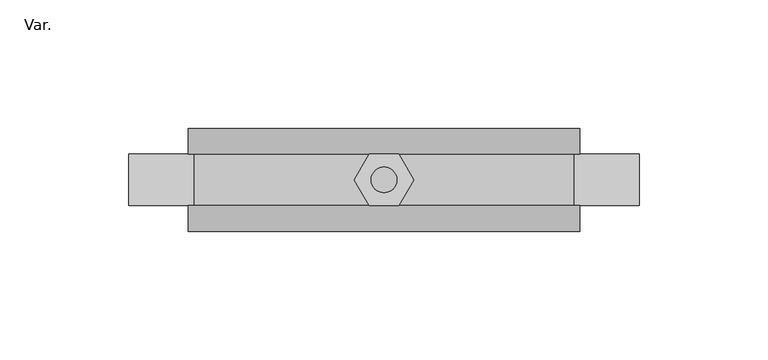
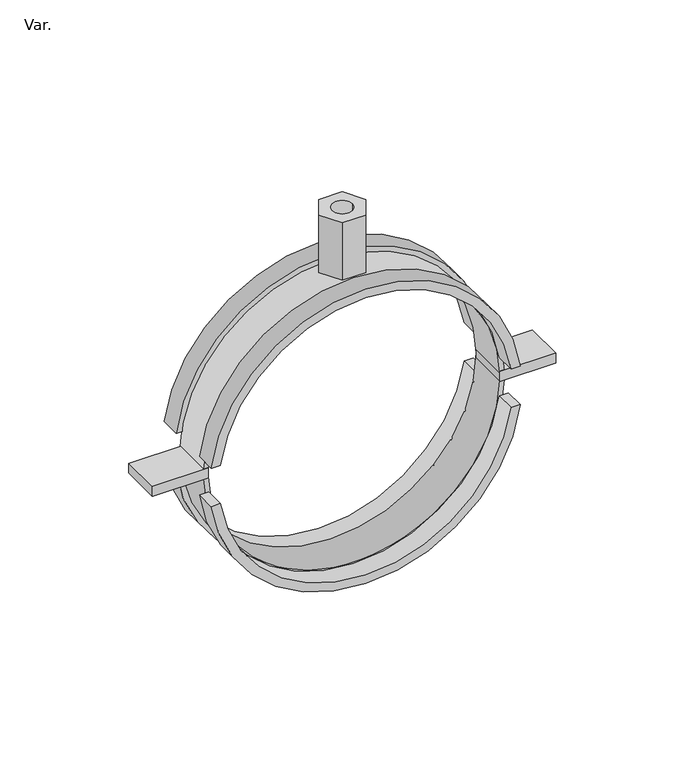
"""IFC4 building model written with IfcOpenShell, lengths in millimetres: pipe fitting geometry, AmancoWavin_Unionesdetubería_SilentiumAbrazaderaIsofonicaVertical : Var.."""

from ifc_helpers import new_model, si_unit, point, frame, origin, origin_2d, place, context, project, spatial, polyline, circle_curve, trimmed, segment, composite_curve, outline, extrude, source, transform, mapped, element, save


def var_324305f6(model_context):
    return source(origin(), model_context, "Body", "SweptSolid", [
        extrude(outline(composite_curve([segment(trimmed(circle_curve(origin_2d(), 72.25), [point((10.0, -71.554612))], [point((10.0, 71.554612))], True, "CARTESIAN"), True, "CONTINUOUS"), segment(polyline([(10.0, 71.554612), (10.0, 76.0453154)]), True, "CONTINUOUS"), segment(trimmed(circle_curve(origin_2d(), 76.7), [point((10.0, 76.0453154))], [point((10.0, -76.0453154))], False, "CARTESIAN"), True, "CONTINUOUS"), segment(polyline([(10.0, -76.0453154), (10.0, -71.554612)]), True, "CONTINUOUS")], self_intersect=False)), frame((0.0, 10.0, 0.0), z_axis=(0.0, 1.0, 0.0), x_axis=(0.0, 0.0, 1.0)), (0.0, 0.0, 1.0), 10.0),
        extrude(outline(composite_curve([segment(polyline([(-10.0, -71.554612), (-10.0, -76.0453154)]), True, "CONTINUOUS"), segment(trimmed(circle_curve(origin_2d(), 76.7), [point((-10.0, -76.0453154))], [point((-10.0, 76.0453154))], False, "CARTESIAN"), True, "CONTINUOUS"), segment(polyline([(-10.0, 76.0453154), (-10.0, 71.554612)]), True, "CONTINUOUS"), segment(trimmed(circle_curve(origin_2d(), 72.25), [point((-10.0, 71.554612))], [point((-10.0, -71.554612))], True, "CARTESIAN"), True, "CONTINUOUS")], self_intersect=False)), frame((0.0, 10.0, 0.0), z_axis=(0.0, 1.0, 0.0), x_axis=(0.0, 0.0, 1.0)), (0.0, 0.0, 1.0), 10.0),
        extrude(outline(composite_curve([segment(polyline([(10.0, 71.554612), (10.0, 76.0453154)]), True, "CONTINUOUS"), segment(trimmed(circle_curve(origin_2d(), 76.7), [point((10.0, 76.0453154))], [point((10.0, -76.0453154))], False, "CARTESIAN"), True, "CONTINUOUS"), segment(polyline([(10.0, -76.0453154), (10.0, -71.554612)]), True, "CONTINUOUS"), segment(trimmed(circle_curve(origin_2d(), 72.25), [point((10.0, -71.554612))], [point((10.0, 71.554612))], True, "CARTESIAN"), True, "CONTINUOUS")], self_intersect=False)), frame((0.0, -20.0, 0.0), z_axis=(0.0, 1.0, 0.0), x_axis=(0.0, 0.0, 1.0)), (0.0, 0.0, 1.0), 10.0),
        extrude(outline(composite_curve([segment(trimmed(circle_curve(origin_2d(), 76.7), [point((-10.0, -76.0453154))], [point((-10.0, 76.0453154))], False, "CARTESIAN"), True, "CONTINUOUS"), segment(polyline([(-10.0, 76.0453154), (-10.0, 71.554612)]), True, "CONTINUOUS"), segment(trimmed(circle_curve(origin_2d(), 72.25), [point((-10.0, 71.554612))], [point((-10.0, -71.554612))], True, "CARTESIAN"), True, "CONTINUOUS"), segment(polyline([(-10.0, -71.554612), (-10.0, -76.0453154)]), True, "CONTINUOUS")], self_intersect=False)), frame((0.0, -20.0, 0.0), z_axis=(0.0, 1.0, 0.0), x_axis=(0.0, 0.0, 1.0)), (0.0, 0.0, 1.0), 10.0),
        extrude(outline(polyline([(-11.5470054, 0.0), (-5.7735027, 10.0), (5.7735027, 10.0), (11.5470054, 0.0), (5.7735027, -10.0), (-5.7735027, -10.0), (-11.5470054, 0.0)]), holes=[composite_curve([segment(trimmed(circle_curve(origin_2d(), 5.0), [point((-5.0, 0.0))], [point((5.0, 0.0))], True, "CARTESIAN"), True, "CONTINUOUS"), segment(trimmed(circle_curve(origin_2d(), 5.0), [point((5.0, 0.0))], [point((-5.0, 0.0))], True, "CARTESIAN"), True, "CONTINUOUS")], self_intersect=False)]), frame((0.0, 0.0, 77.25), z_axis=(0.0, 0.0, 1.0), x_axis=(1.0, 0.0, 0.0)), (0.0, 0.0, 1.0), 30.0),
        extrude(outline(polyline([(-71.7, -10.0), (-99.23, -10.0), (-99.23, 10.0), (-71.7, 10.0), (-71.7, -10.0)])), frame((0.0, 0.0, -2.5), z_axis=(0.0, 0.0, 1.0), x_axis=(1.0, 0.0, 0.0)), (0.0, 0.0, 1.0), 5.0),
        extrude(outline(polyline([(99.23, -10.0), (71.7, -10.0), (71.7, 10.0), (99.23, 10.0), (99.23, -10.0)])), frame((0.0, 0.0, -2.5), z_axis=(0.0, 0.0, 1.0), x_axis=(1.0, 0.0, 0.0)), (0.0, 0.0, 1.0), 5.0),
        extrude(outline(composite_curve([segment(trimmed(circle_curve(origin_2d(), 74.2), [point((0.0, -74.2))], [point((0.0, 74.2))], False, "CARTESIAN"), True, "CONTINUOUS"), segment(trimmed(circle_curve(origin_2d(), 74.2), [point((0.0, 74.2))], [point((0.0, -74.2))], False, "CARTESIAN"), True, "CONTINUOUS")], self_intersect=False), holes=[composite_curve([segment(trimmed(circle_curve(origin_2d(), 71.7), [point((0.0, -71.7))], [point((0.0, 71.7))], True, "CARTESIAN"), True, "CONTINUOUS"), segment(trimmed(circle_curve(origin_2d(), 71.7), [point((0.0, 71.7))], [point((0.0, -71.7))], True, "CARTESIAN"), True, "CONTINUOUS")], self_intersect=False)]), frame((0.0, -10.0, 0.0), z_axis=(0.0, 1.0, 0.0), x_axis=(0.0, 0.0, 1.0)), (0.0, 0.0, 1.0), 20.0),
    ])


if __name__ == "__main__":
    model = new_model("IFC4")
    model_context = context("Model", 3, world=origin())
    ifc_project = project(units=[si_unit("LENGTHUNIT", "METRE", prefix="MILLI")], contexts=[model_context])
    site = spatial("IfcSite", under=ifc_project)
    building = spatial("IfcBuilding", under=site)
    placement = place(None, origin())
    var_shape = var_324305f6(model_context)
    element("IfcPipeFitting", 1, ObjectType="AmancoWavin_Unionesdetubería_SilentiumAbrazaderaIsofonicaVertical : Var.", at=placement, inside=building, context=model_context, shape_type="MappedRepresentation", body=[
        mapped(var_shape, transform((0.0, 0.0, 0.0), x_axis=(1.0, 0.0, 0.0), y_axis=(0.0, 1.0, 0.0), z_axis=(0.0, 0.0, 1.0))),
    ])
    save(model, "model.ifc")
